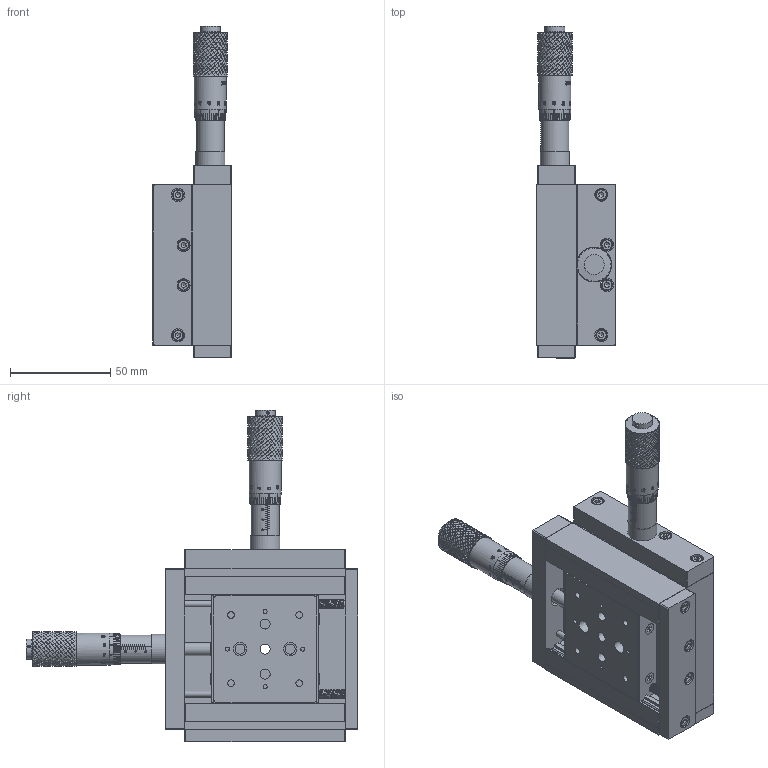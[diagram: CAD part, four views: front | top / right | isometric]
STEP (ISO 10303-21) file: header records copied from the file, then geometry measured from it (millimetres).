
FILE_DESCRIPTION (( 'STEP AP203' ), '1' );
FILE_NAME ('TCM53XY-1.step', '2017-01-10T09:14:16', ( '¦K¬P' ), ( '' ), 'SwSTEP 2.0', 'SolidWorks 2012', '' );
FILE_SCHEMA (( 'CONFIG_CONTROL_DESIGN' ));
Products named in the file (1): TCM53XY-1
Bounding box: 39.2 x 165.5 x 165.5 mm (x, y, z)
Surface area: 88785.8 mm2 (no closed solid volume)
Topology: 0 solids, 143 shells, 3191 faces, 13441 edges, 9779 vertices
Faces by surface type: bspline 1639, cylinder 1214, plane 282, cone 54, sphere 2
Full cylindrical faces by diameter (mm): 1.4 x2, 2 x10, 2.5 x2, 3 x4, 3.3 x14, 4.5 x6, 4.6 x3, 5 x4, 5.5 x3, 6 x4, 6.5 x20, 8 x4, 9.5 x1, 10 x2, 11 x4, 14.6 x2, 14.8 x2, 16 x2
Entity records: 336112 total; most frequent: CARTESIAN_POINT 258846, ORIENTED_EDGE 21358, EDGE_CURVE 13282, VERTEX_POINT 9747, DIRECTION 7477, B_SPLINE_CURVE_WITH_KNOTS 5242, EDGE_LOOP 3693, FACE_OUTER_BOUND 3284
